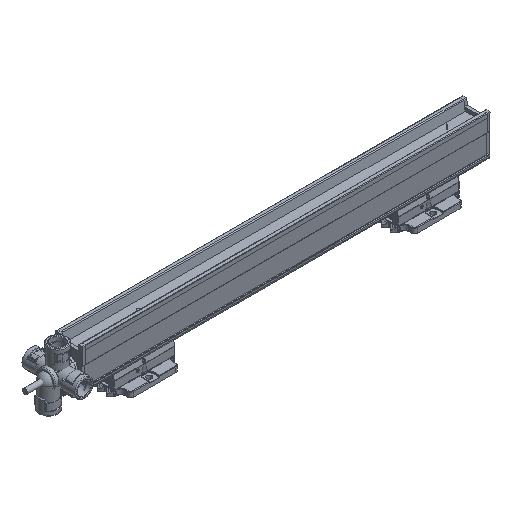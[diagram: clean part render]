
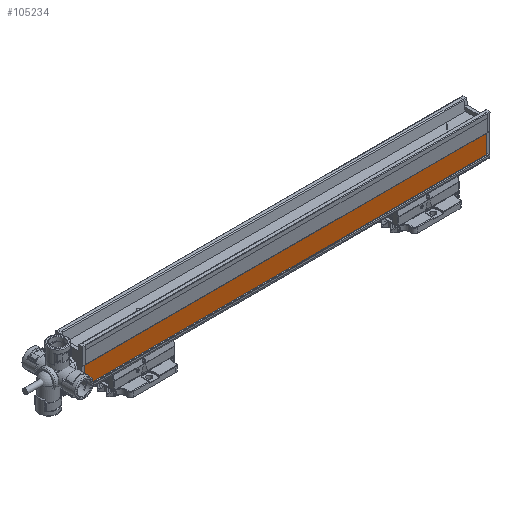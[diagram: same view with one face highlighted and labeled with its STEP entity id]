
A CAD part, isometric view. The second image highlights one B-rep face of the part: STEP entity #105234.
In plain terms, the highlighted planar face has unit normal (0, -1, 0) as drawn and (-1, 0, 0) by its records, which use the part's own axes.
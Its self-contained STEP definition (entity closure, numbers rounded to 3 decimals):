
#1447=VECTOR('',#69410,1.);
#1482=VECTOR('',#69529,1.);
#1519=VECTOR('',#69642,1.);
#1520=VECTOR('',#69645,1.);
#4215=LINE('',#79487,#1447);
#4250=LINE('',#79637,#1482);
#4287=LINE('',#79714,#1519);
#4288=LINE('',#79716,#1520);
#45473=PLANE('',#101545);
#46635=ORIENTED_EDGE('',*,*,#60421,.F.);
#46636=ORIENTED_EDGE('',*,*,#60381,.F.);
#46637=ORIENTED_EDGE('',*,*,#60420,.T.);
#46638=ORIENTED_EDGE('',*,*,#60306,.F.);
#57294=VERTEX_POINT('',#79484);
#57295=VERTEX_POINT('',#79486);
#57367=VERTEX_POINT('',#79634);
#57368=VERTEX_POINT('',#79636);
#60306=EDGE_CURVE('',#57294,#57295,#4215,.T.);
#60381=EDGE_CURVE('',#57367,#57368,#4250,.T.);
#60420=EDGE_CURVE('',#57367,#57295,#4287,.T.);
#60421=EDGE_CURVE('',#57368,#57294,#4288,.T.);
#65045=EDGE_LOOP('',(#46635,#46636,#46637,#46638));
#67221=FACE_BOUND('',#65045,.T.);
#69410=DIRECTION('',(0.,-20.3,0.));
#69529=DIRECTION('',(0.,20.3,0.));
#69642=DIRECTION('',(0.,0.,438.4));
#69643=DIRECTION('',(-1.,0.,0.));
#69644=DIRECTION('',(0.,1.,0.));
#69645=DIRECTION('',(0.,0.,438.4));
#79484=CARTESIAN_POINT('',(49.046,34.279,438.4));
#79486=CARTESIAN_POINT('',(49.046,13.979,438.4));
#79487=CARTESIAN_POINT('',(49.046,34.279,438.4));
#79634=CARTESIAN_POINT('',(49.046,13.979,0.));
#79636=CARTESIAN_POINT('',(49.046,34.279,0.));
#79637=CARTESIAN_POINT('',(49.046,13.979,0.));
#79714=CARTESIAN_POINT('',(49.046,13.979,0.));
#79715=CARTESIAN_POINT('',(49.046,13.979,0.));
#79716=CARTESIAN_POINT('',(49.046,34.279,0.));
#101545=AXIS2_PLACEMENT_3D('',#79715,#69643,#69644);
#105234=ADVANCED_FACE('',(#67221),#45473,.T.);
